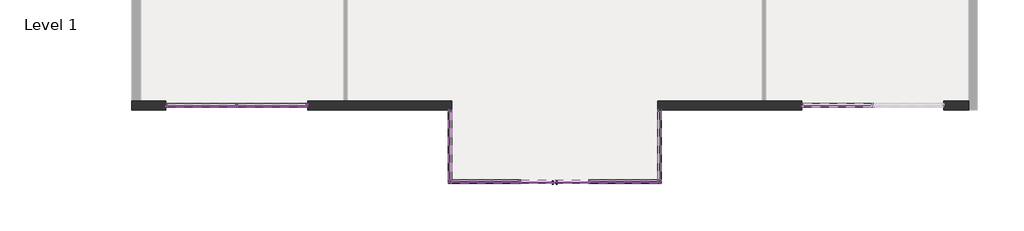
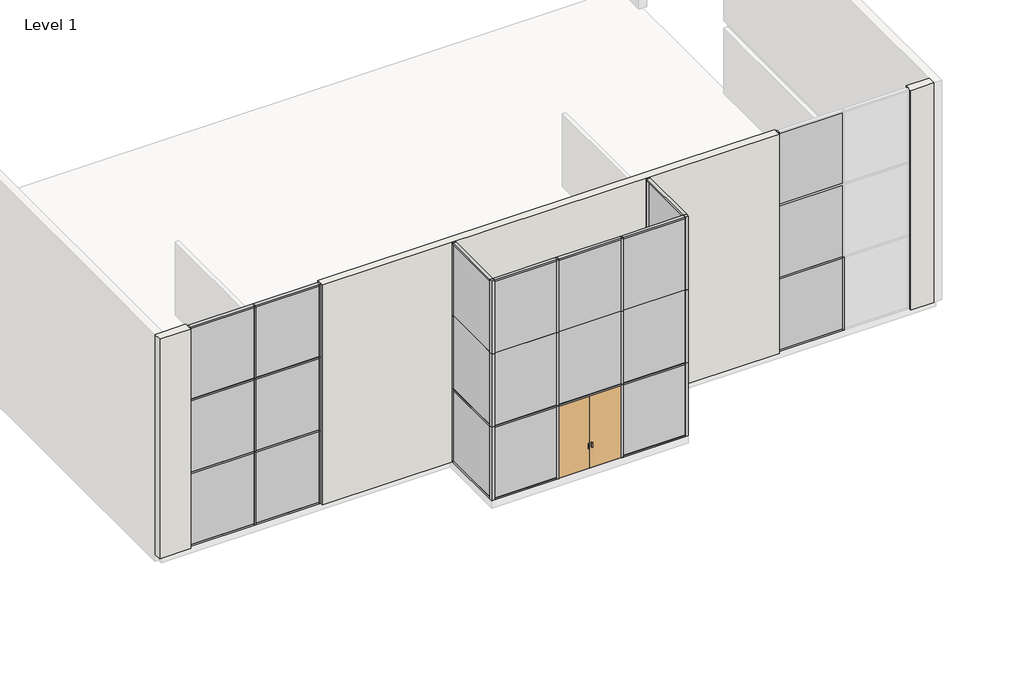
# One storey, part 1 of 7: 55 members, 23 plates, 1 door, 1 wall.
"""IFC4 building model written with IfcOpenShell, lengths in millimetres."""

from ifc_helpers import new_model, si_unit, origin, place, context, project, spatial, faceted_brep, transform, mapped, element, save
from components import m_curtain_wall_dbl_glass_m_curtain_wall_dbl_glass_65589565, member_092dde94, member_3b285806, member_887e70fb, member_3f395ae9, member_eaba9652, member_bd5c9510, member_6d1da0dd, member_11ed7e2d, member_605e1044, member_b6766b59, member_5ef46571, system_panel_glazed_dec8f576, system_panel_glazed_a2b5a2cd, system_panel_glazed_4b2e8b6a, system_panel_glazed_935986ee, system_panel_glazed_54eba105, system_panel_glazed_2b873caf, system_panel_glazed_5724f4ed, system_panel_glazed_d0cb5eef, system_panel_glazed_25cc98ba, system_panel_glazed_d8e6d469, system_panel_glazed_b25d086d, system_panel_glazed_057324e0

model = new_model("IFC4")

# Units and contexts
model_context = context("Model", 3, world=origin())
ifc_project = project(units=[si_unit("LENGTHUNIT", "METRE", prefix="MILLI")], contexts=[model_context])

# Site, building, storey
site = spatial("IfcSite", under=ifc_project)
building = spatial("IfcBuilding", under=site)
storey = spatial("IfcBuildingStorey", under=building, Name="Level 1", Elevation=0.0)

# Door
placement = place(None, origin())
m_curtain_wall_dbl_glass_m_curtain_wall_dbl_glass_shape = m_curtain_wall_dbl_glass_m_curtain_wall_dbl_glass_65589565(model_context)
element("IfcDoor", 1, ObjectType="M_Curtain Wall Dbl Glass : M_Curtain Wall Dbl Glass", at=placement, inside=storey, context=model_context, shape_type="MappedRepresentation", body=[
    mapped(m_curtain_wall_dbl_glass_m_curtain_wall_dbl_glass_shape, transform((-3088.917382, -8357.3516396, 0.0), x_axis=(-1.0, 0.0, 0.0), y_axis=(0.0, -1.0, 0.0), z_axis=(0.0, 0.0, 1.0))),
])

# Members
member_shape = member_092dde94(model_context)
element("IfcMember", 2, ObjectType="Quad Corner Mullion : 5\" x 5\" Quad Corner", at=placement, inside=storey, context=model_context, shape_type="MappedRepresentation", body=[
    mapped(member_shape, transform((-6898.917382, -8357.3516396, 0.0), x_axis=(-1.0, 0.0, 0.0), y_axis=(0.0, 1.0, 0.0), z_axis=(0.0, 0.0, -1.0))),
])
element("IfcMember", 3, ObjectType="Quad Corner Mullion : 5\" x 5\" Quad Corner", at=placement, inside=storey, context=model_context, shape_type="MappedRepresentation", body=[
    mapped(member_shape, transform((721.082618, -8357.3516396, 3048.0), x_axis=(1.0, 0.0, 0.0), y_axis=(0.0, 1.0, 0.0), z_axis=(0.0, 0.0, 1.0))),
])
element("IfcMember", 4, ObjectType="Quad Corner Mullion : 5\" x 5\" Quad Corner", at=placement, inside=storey, context=model_context, shape_type="MappedRepresentation", body=[
    mapped(member_shape, transform((721.082618, -8357.3516396, 9144.0), x_axis=(1.0, 0.0, 0.0), y_axis=(0.0, 1.0, 0.0), z_axis=(0.0, 0.0, 1.0))),
])
element("IfcMember", 5, ObjectType="Quad Corner Mullion : 5\" x 5\" Quad Corner", at=placement, inside=storey, context=model_context, shape_type="MappedRepresentation", body=[
    mapped(member_shape, transform((-6898.917382, -8357.3516396, 3048.0), x_axis=(-1.0, 0.0, 0.0), y_axis=(0.0, 1.0, 0.0), z_axis=(0.0, 0.0, -1.0))),
])
element("IfcMember", 6, ObjectType="Quad Corner Mullion : 5\" x 5\" Quad Corner", at=placement, inside=storey, context=model_context, shape_type="MappedRepresentation", body=[
    mapped(member_shape, transform((721.082618, -8357.3516396, 6096.0), x_axis=(1.0, 0.0, 0.0), y_axis=(0.0, 1.0, 0.0), z_axis=(0.0, 0.0, 1.0))),
])
element("IfcMember", 7, ObjectType="Quad Corner Mullion : 5\" x 5\" Quad Corner", at=placement, inside=storey, context=model_context, shape_type="MappedRepresentation", body=[
    mapped(member_shape, transform((-6898.917382, -8357.3516396, 6096.0), x_axis=(-1.0, 0.0, 0.0), y_axis=(0.0, 1.0, 0.0), z_axis=(0.0, 0.0, -1.0))),
])
member_2_shape = member_3b285806(model_context)
element("IfcMember", 8, ObjectType="Rectangular Mullion : 2.5\" x 5\" rectangular", at=placement, inside=storey, context=model_context, shape_type="MappedRepresentation", body=[
    mapped(member_2_shape, transform((-6835.417382, -8357.3516396, 9144.0), x_axis=(0.0, 0.0, 1.0), y_axis=(0.0, 1.0, 0.0), z_axis=(-1.0, 0.0, 0.0))),
])
element("IfcMember", 9, ObjectType="Rectangular Mullion : 2.5\" x 5\" rectangular", at=placement, inside=storey, context=model_context, shape_type="MappedRepresentation", body=[
    mapped(member_2_shape, transform((-1787.1673821, -8357.3516396, 9144.0), x_axis=(0.0, 0.0, 1.0), y_axis=(0.0, 1.0, 0.0), z_axis=(-1.0, 0.0, 0.0))),
])
element("IfcMember", 10, ObjectType="Rectangular Mullion : 2.5\" x 5\" rectangular", at=placement, inside=storey, context=model_context, shape_type="MappedRepresentation", body=[
    mapped(member_2_shape, transform((657.582618, -8357.3516396, 0.0), x_axis=(0.0, 0.0, -1.0), y_axis=(0.0, 1.0, 0.0), z_axis=(1.0, 0.0, 0.0))),
])
element("IfcMember", 11, ObjectType="Rectangular Mullion : 2.5\" x 5\" rectangular", at=placement, inside=storey, context=model_context, shape_type="MappedRepresentation", body=[
    mapped(member_2_shape, transform((-4390.6673819, -8357.3516396, 0.0), x_axis=(0.0, 0.0, -1.0), y_axis=(0.0, 1.0, 0.0), z_axis=(1.0, 0.0, 0.0))),
])
member_3_shape = member_887e70fb(model_context)
element("IfcMember", 12, ObjectType="Rectangular Mullion : 2.5\" x 5\" rectangular", at=placement, inside=storey, context=model_context, shape_type="MappedRepresentation", body=[
    mapped(member_3_shape, transform((-4327.1673819, -8357.3516396, 9144.0), x_axis=(0.0, 0.0, 1.0), y_axis=(0.0, 1.0, 0.0), z_axis=(-1.0, 0.0, 0.0))),
])
member_4_shape = member_3f395ae9(model_context)
element("IfcMember", 13, ObjectType="Rectangular Mullion : 2.5\" x 5\" rectangular", at=placement, inside=storey, context=model_context, shape_type="MappedRepresentation", body=[
    mapped(member_4_shape, transform((-6898.917382, -5737.9766396, 0.0), x_axis=(0.0, 1.0, 0.0), y_axis=(1.0, 0.0, 0.0), z_axis=(0.0, 0.0, -1.0))),
])
element("IfcMember", 14, ObjectType="Rectangular Mullion : 2.5\" x 5\" rectangular", at=placement, inside=storey, context=model_context, shape_type="MappedRepresentation", body=[
    mapped(member_4_shape, transform((-17262.117382, -5582.4016396, 0.0), x_axis=(-1.0, 0.0, 0.0), y_axis=(0.0, 1.0, 0.0), z_axis=(0.0, 0.0, -1.0))),
])
element("IfcMember", 15, ObjectType="Rectangular Mullion : 2.5\" x 5\" rectangular", at=placement, inside=storey, context=model_context, shape_type="MappedRepresentation", body=[
    mapped(member_4_shape, transform((-17262.117382, -5582.4016396, 6096.0), x_axis=(-1.0, 0.0, 0.0), y_axis=(0.0, 1.0, 0.0), z_axis=(0.0, 0.0, -1.0))),
])
member_5_shape = member_eaba9652(model_context)
element("IfcMember", 16, ObjectType="Rectangular Mullion : 2.5\" x 5\" rectangular", at=placement, inside=storey, context=model_context, shape_type="MappedRepresentation", body=[
    mapped(member_5_shape, transform((-1818.9173821, -8357.3516396, 0.0), x_axis=(-1.0, 0.0, 0.0), y_axis=(0.0, 1.0, 0.0), z_axis=(0.0, 0.0, -1.0))),
])
element("IfcMember", 17, ObjectType="Rectangular Mullion : 2.5\" x 5\" rectangular", at=placement, inside=storey, context=model_context, shape_type="MappedRepresentation", body=[
    mapped(member_5_shape, transform((-4358.9173819, -8357.3516396, 0.0), x_axis=(-1.0, 0.0, 0.0), y_axis=(0.0, 1.0, 0.0), z_axis=(0.0, 0.0, -1.0))),
])
element("IfcMember", 18, ObjectType="Rectangular Mullion : 2.5\" x 5\" rectangular", at=placement, inside=storey, context=model_context, shape_type="MappedRepresentation", body=[
    mapped(member_5_shape, transform((-14671.317382, -5582.4016396, 0.0), x_axis=(-1.0, 0.0, 0.0), y_axis=(0.0, 1.0, 0.0), z_axis=(0.0, 0.0, -1.0))),
])
element("IfcMember", 19, ObjectType="Rectangular Mullion : 2.5\" x 5\" rectangular", at=placement, inside=storey, context=model_context, shape_type="MappedRepresentation", body=[
    mapped(member_5_shape, transform((-14671.317382, -5582.4016396, 6096.0), x_axis=(-1.0, 0.0, 0.0), y_axis=(0.0, 1.0, 0.0), z_axis=(0.0, 0.0, -1.0))),
])
member_6_shape = member_bd5c9510(model_context)
element("IfcMember", 20, ObjectType="Rectangular Mullion : 2.5\" x 5\" rectangular", at=placement, inside=storey, context=model_context, shape_type="MappedRepresentation", body=[
    mapped(member_6_shape, transform((-6835.417382, -8357.3516396, 3048.0), x_axis=(0.0, 0.0, 1.0), y_axis=(0.0, 1.0, 0.0), z_axis=(-1.0, 0.0, 0.0))),
])
element("IfcMember", 21, ObjectType="Rectangular Mullion : 2.5\" x 5\" rectangular", at=placement, inside=storey, context=model_context, shape_type="MappedRepresentation", body=[
    mapped(member_6_shape, transform((-1787.1673821, -8357.3516396, 3048.0), x_axis=(0.0, 0.0, 1.0), y_axis=(0.0, 1.0, 0.0), z_axis=(-1.0, 0.0, 0.0))),
])
member_7_shape = member_6d1da0dd(model_context)
element("IfcMember", 22, ObjectType="Rectangular Mullion : 2.5\" x 5\" rectangular", at=placement, inside=storey, context=model_context, shape_type="MappedRepresentation", body=[
    mapped(member_7_shape, transform((-4327.1673819, -8357.3516396, 3048.0), x_axis=(0.0, 0.0, 1.0), y_axis=(0.0, 1.0, 0.0), z_axis=(-1.0, 0.0, 0.0))),
])
element("IfcMember", 23, ObjectType="Rectangular Mullion : 2.5\" x 5\" rectangular", at=placement, inside=storey, context=model_context, shape_type="MappedRepresentation", body=[
    mapped(member_4_shape, transform((-12080.517382, -5582.4016396, 9144.0), x_axis=(1.0, 0.0, 0.0), y_axis=(0.0, 1.0, 0.0), z_axis=(0.0, 0.0, 1.0))),
])
element("IfcMember", 24, ObjectType="Rectangular Mullion : 2.5\" x 5\" rectangular", at=placement, inside=storey, context=model_context, shape_type="MappedRepresentation", body=[
    mapped(member_4_shape, transform((721.082618, -5737.9766396, 3048.0), x_axis=(0.0, 1.0, 0.0), y_axis=(-1.0, 0.0, 0.0), z_axis=(0.0, 0.0, 1.0))),
])
element("IfcMember", 25, ObjectType="Rectangular Mullion : 2.5\" x 5\" rectangular", at=placement, inside=storey, context=model_context, shape_type="MappedRepresentation", body=[
    mapped(member_4_shape, transform((-12080.517382, -5582.4016396, 3048.0), x_axis=(1.0, 0.0, 0.0), y_axis=(0.0, 1.0, 0.0), z_axis=(0.0, 0.0, 1.0))),
])
element("IfcMember", 26, ObjectType="Rectangular Mullion : 2.5\" x 5\" rectangular", at=placement, inside=storey, context=model_context, shape_type="MappedRepresentation", body=[
    mapped(member_5_shape, transform((8493.482618, -5582.4016396, 0.0), x_axis=(1.0, 0.0, 0.0), y_axis=(0.0, -1.0, 0.0), z_axis=(0.0, 0.0, -1.0))),
])
element("IfcMember", 27, ObjectType="Rectangular Mullion : 2.5\" x 5\" rectangular", at=placement, inside=storey, context=model_context, shape_type="MappedRepresentation", body=[
    mapped(member_4_shape, transform((5902.682618, -5582.4016396, 9144.0), x_axis=(-1.0, 0.0, 0.0), y_axis=(0.0, -1.0, 0.0), z_axis=(0.0, 0.0, 1.0))),
])
element("IfcMember", 28, ObjectType="Rectangular Mullion : 2.5\" x 5\" rectangular", at=placement, inside=storey, context=model_context, shape_type="MappedRepresentation", body=[
    mapped(member_4_shape, transform((5902.682618, -5582.4016396, 3048.0), x_axis=(-1.0, 0.0, 0.0), y_axis=(0.0, -1.0, 0.0), z_axis=(0.0, 0.0, 1.0))),
])
element("IfcMember", 29, ObjectType="Rectangular Mullion : 2.5\" x 5\" rectangular", at=placement, inside=storey, context=model_context, shape_type="MappedRepresentation", body=[
    mapped(member_4_shape, transform((5902.682618, -5582.4016396, 6096.0), x_axis=(-1.0, 0.0, 0.0), y_axis=(0.0, -1.0, 0.0), z_axis=(0.0, 0.0, 1.0))),
])
member_8_shape = member_11ed7e2d(model_context)
element("IfcMember", 30, ObjectType="Rectangular Mullion : 2.5\" x 5\" rectangular", at=placement, inside=storey, context=model_context, shape_type="MappedRepresentation", body=[
    mapped(member_8_shape, transform((-6898.917382, -5801.4766396, 9144.0), x_axis=(0.0, 0.0, 1.0), y_axis=(1.0, 0.0, 0.0), z_axis=(0.0, 1.0, 0.0))),
])
element("IfcMember", 31, ObjectType="Rectangular Mullion : 2.5\" x 5\" rectangular", at=placement, inside=storey, context=model_context, shape_type="MappedRepresentation", body=[
    mapped(member_8_shape, transform((721.082618, -8293.8516396, 9144.0), x_axis=(0.0, 0.0, 1.0), y_axis=(-1.0, 0.0, 0.0), z_axis=(0.0, -1.0, 0.0))),
])
element("IfcMember", 32, ObjectType="Rectangular Mullion : 2.5\" x 5\" rectangular", at=placement, inside=storey, context=model_context, shape_type="MappedRepresentation", body=[
    mapped(member_8_shape, transform((-6898.917382, -8293.8516396, 0.0), x_axis=(0.0, 0.0, -1.0), y_axis=(1.0, 0.0, 0.0), z_axis=(0.0, -1.0, 0.0))),
])
element("IfcMember", 33, ObjectType="Rectangular Mullion : 2.5\" x 5\" rectangular", at=placement, inside=storey, context=model_context, shape_type="MappedRepresentation", body=[
    mapped(member_8_shape, transform((721.082618, -5801.4766396, 0.0), x_axis=(0.0, 0.0, -1.0), y_axis=(-1.0, 0.0, 0.0), z_axis=(0.0, 1.0, 0.0))),
])
member_9_shape = member_605e1044(model_context)
element("IfcMember", 34, ObjectType="Rectangular Mullion : 2.5\" x 5\" rectangular", at=placement, inside=storey, context=model_context, shape_type="MappedRepresentation", body=[
    mapped(member_9_shape, transform((-6898.917382, -5801.4766396, 3048.0), x_axis=(0.0, 0.0, 1.0), y_axis=(1.0, 0.0, 0.0), z_axis=(0.0, 1.0, 0.0))),
])
element("IfcMember", 35, ObjectType="Rectangular Mullion : 2.5\" x 5\" rectangular", at=placement, inside=storey, context=model_context, shape_type="MappedRepresentation", body=[
    mapped(member_9_shape, transform((721.082618, -8293.8516396, 3048.0), x_axis=(0.0, 0.0, 1.0), y_axis=(-1.0, 0.0, 0.0), z_axis=(0.0, -1.0, 0.0))),
])
member_10_shape = member_b6766b59(model_context)
element("IfcMember", 36, ObjectType="Rectangular Mullion : 2.5\" x 5\" rectangular", at=placement, inside=storey, context=model_context, shape_type="MappedRepresentation", body=[
    mapped(member_10_shape, transform((-17198.617382, -5582.4016396, 9144.0), x_axis=(0.0, 0.0, 1.0), y_axis=(0.0, 1.0, 0.0), z_axis=(-1.0, 0.0, 0.0))),
])
element("IfcMember", 37, ObjectType="Rectangular Mullion : 2.5\" x 5\" rectangular", at=placement, inside=storey, context=model_context, shape_type="MappedRepresentation", body=[
    mapped(member_10_shape, transform((-14639.567382, -5582.4016396, 9144.0), x_axis=(0.0, 0.0, 1.0), y_axis=(0.0, 1.0, 0.0), z_axis=(-1.0, 0.0, 0.0))),
])
element("IfcMember", 38, ObjectType="Rectangular Mullion : 2.5\" x 5\" rectangular", at=placement, inside=storey, context=model_context, shape_type="MappedRepresentation", body=[
    mapped(member_10_shape, transform((-12144.017382, -5582.4016396, 0.0), x_axis=(0.0, 0.0, -1.0), y_axis=(0.0, 1.0, 0.0), z_axis=(1.0, 0.0, 0.0))),
])
element("IfcMember", 39, ObjectType="Rectangular Mullion : 2.5\" x 5\" rectangular", at=placement, inside=storey, context=model_context, shape_type="MappedRepresentation", body=[
    mapped(member_10_shape, transform((-14703.067382, -5582.4016396, 0.0), x_axis=(0.0, 0.0, -1.0), y_axis=(0.0, 1.0, 0.0), z_axis=(1.0, 0.0, 0.0))),
])
member_11_shape = member_5ef46571(model_context)
element("IfcMember", 40, ObjectType="Rectangular Mullion : 2.5\" x 5\" rectangular", at=placement, inside=storey, context=model_context, shape_type="MappedRepresentation", body=[
    mapped(member_11_shape, transform((-14639.567382, -5582.4016396, 3048.0), x_axis=(0.0, 0.0, 1.0), y_axis=(0.0, 1.0, 0.0), z_axis=(-1.0, 0.0, 0.0))),
])
element("IfcMember", 41, ObjectType="Rectangular Mullion : 2.5\" x 5\" rectangular", at=placement, inside=storey, context=model_context, shape_type="MappedRepresentation", body=[
    mapped(member_11_shape, transform((-17198.617382, -5582.4016396, 3048.0), x_axis=(0.0, 0.0, 1.0), y_axis=(0.0, 1.0, 0.0), z_axis=(-1.0, 0.0, 0.0))),
])
element("IfcMember", 42, ObjectType="Rectangular Mullion : 2.5\" x 5\" rectangular", at=placement, inside=storey, context=model_context, shape_type="MappedRepresentation", body=[
    mapped(member_11_shape, transform((-14639.567382, -5582.4016396, 6096.0), x_axis=(0.0, 0.0, 1.0), y_axis=(0.0, 1.0, 0.0), z_axis=(-1.0, 0.0, 0.0))),
])
element("IfcMember", 43, ObjectType="Rectangular Mullion : 2.5\" x 5\" rectangular", at=placement, inside=storey, context=model_context, shape_type="MappedRepresentation", body=[
    mapped(member_11_shape, transform((-17198.617382, -5582.4016396, 6096.0), x_axis=(0.0, 0.0, 1.0), y_axis=(0.0, 1.0, 0.0), z_axis=(-1.0, 0.0, 0.0))),
])
element("IfcMember", 44, ObjectType="Rectangular Mullion : 2.5\" x 5\" rectangular", at=placement, inside=storey, context=model_context, shape_type="MappedRepresentation", body=[
    mapped(member_5_shape, transform((-14671.317382, -5582.4016396, 3048.0), x_axis=(-1.0, 0.0, 0.0), y_axis=(0.0, 1.0, 0.0), z_axis=(0.0, 0.0, -1.0))),
])
element("IfcMember", 45, ObjectType="Rectangular Mullion : 2.5\" x 5\" rectangular", at=placement, inside=storey, context=model_context, shape_type="MappedRepresentation", body=[
    mapped(member_4_shape, transform((-17262.117382, -5582.4016396, 3048.0), x_axis=(-1.0, 0.0, 0.0), y_axis=(0.0, 1.0, 0.0), z_axis=(0.0, 0.0, -1.0))),
])
element("IfcMember", 46, ObjectType="Rectangular Mullion : 2.5\" x 5\" rectangular", at=placement, inside=storey, context=model_context, shape_type="MappedRepresentation", body=[
    mapped(member_4_shape, transform((-12080.517382, -5582.4016396, 6096.0), x_axis=(1.0, 0.0, 0.0), y_axis=(0.0, 1.0, 0.0), z_axis=(0.0, 0.0, 1.0))),
])
element("IfcMember", 47, ObjectType="Rectangular Mullion : 2.5\" x 5\" rectangular", at=placement, inside=storey, context=model_context, shape_type="MappedRepresentation", body=[
    mapped(member_10_shape, transform((5966.182618, -5582.4016396, 0.0), x_axis=(0.0, 0.0, -1.0), y_axis=(0.0, -1.0, 0.0), z_axis=(-1.0, 0.0, 0.0))),
])
element("IfcMember", 48, ObjectType="Rectangular Mullion : 2.5\" x 5\" rectangular", at=placement, inside=storey, context=model_context, shape_type="MappedRepresentation", body=[
    mapped(member_11_shape, transform((8461.732618, -5582.4016396, 3048.0), x_axis=(0.0, 0.0, 1.0), y_axis=(0.0, -1.0, 0.0), z_axis=(1.0, 0.0, 0.0))),
])
element("IfcMember", 49, ObjectType="Rectangular Mullion : 2.5\" x 5\" rectangular", at=placement, inside=storey, context=model_context, shape_type="MappedRepresentation", body=[
    mapped(member_5_shape, transform((-1818.9173821, -8357.3516396, 3048.0), x_axis=(-1.0, 0.0, 0.0), y_axis=(0.0, 1.0, 0.0), z_axis=(0.0, 0.0, -1.0))),
])
element("IfcMember", 50, ObjectType="Rectangular Mullion : 2.5\" x 5\" rectangular", at=placement, inside=storey, context=model_context, shape_type="MappedRepresentation", body=[
    mapped(member_5_shape, transform((-4358.9173819, -8357.3516396, 3048.0), x_axis=(-1.0, 0.0, 0.0), y_axis=(0.0, 1.0, 0.0), z_axis=(0.0, 0.0, -1.0))),
])
element("IfcMember", 51, ObjectType="Rectangular Mullion : 2.5\" x 5\" rectangular", at=placement, inside=storey, context=model_context, shape_type="MappedRepresentation", body=[
    mapped(member_5_shape, transform((-1818.9173821, -8357.3516396, 6096.0), x_axis=(-1.0, 0.0, 0.0), y_axis=(0.0, 1.0, 0.0), z_axis=(0.0, 0.0, -1.0))),
])
element("IfcMember", 52, ObjectType="Rectangular Mullion : 2.5\" x 5\" rectangular", at=placement, inside=storey, context=model_context, shape_type="MappedRepresentation", body=[
    mapped(member_5_shape, transform((-4358.9173819, -8357.3516396, 6096.0), x_axis=(-1.0, 0.0, 0.0), y_axis=(0.0, 1.0, 0.0), z_axis=(0.0, 0.0, -1.0))),
])
element("IfcMember", 53, ObjectType="Rectangular Mullion : 2.5\" x 5\" rectangular", at=placement, inside=storey, context=model_context, shape_type="MappedRepresentation", body=[
    mapped(member_4_shape, transform((721.082618, -5737.9766396, 9144.0), x_axis=(0.0, 1.0, 0.0), y_axis=(-1.0, 0.0, 0.0), z_axis=(0.0, 0.0, 1.0))),
])
element("IfcMember", 54, ObjectType="Rectangular Mullion : 2.5\" x 5\" rectangular", at=placement, inside=storey, context=model_context, shape_type="MappedRepresentation", body=[
    mapped(member_4_shape, transform((-6898.917382, -5737.9766396, 3048.0), x_axis=(0.0, 1.0, 0.0), y_axis=(1.0, 0.0, 0.0), z_axis=(0.0, 0.0, -1.0))),
])
element("IfcMember", 55, ObjectType="Rectangular Mullion : 2.5\" x 5\" rectangular", at=placement, inside=storey, context=model_context, shape_type="MappedRepresentation", body=[
    mapped(member_4_shape, transform((721.082618, -5737.9766396, 6096.0), x_axis=(0.0, 1.0, 0.0), y_axis=(-1.0, 0.0, 0.0), z_axis=(0.0, 0.0, 1.0))),
])
element("IfcMember", 56, ObjectType="Rectangular Mullion : 2.5\" x 5\" rectangular", at=placement, inside=storey, context=model_context, shape_type="MappedRepresentation", body=[
    mapped(member_4_shape, transform((-6898.917382, -5737.9766396, 6096.0), x_axis=(0.0, 1.0, 0.0), y_axis=(1.0, 0.0, 0.0), z_axis=(0.0, 0.0, -1.0))),
])

# Plates
system_panel_glazed_shape = system_panel_glazed_dec8f576(model_context)
element("IfcPlate", 57, ObjectType="System Panel : Glazed", at=placement, inside=storey, context=model_context, shape_type="MappedRepresentation", body=[
    mapped(system_panel_glazed_shape, transform((-564.792382, -8357.3516396, 63.5), x_axis=(-1.0, 0.0, 0.0), y_axis=(0.0, -1.0, 0.0), z_axis=(0.0, 0.0, 1.0))),
])
element("IfcPlate", 58, ObjectType="System Panel : Glazed", at=placement, inside=storey, context=model_context, shape_type="MappedRepresentation", body=[
    mapped(system_panel_glazed_shape, transform((-5613.0423819, -8357.3516396, 63.5), x_axis=(-1.0, 0.0, 0.0), y_axis=(0.0, -1.0, 0.0), z_axis=(0.0, 0.0, 1.0))),
])
system_panel_glazed_2_shape = system_panel_glazed_a2b5a2cd(model_context)
element("IfcPlate", 59, ObjectType="System Panel : Glazed", at=placement, inside=storey, context=model_context, shape_type="MappedRepresentation", body=[
    mapped(system_panel_glazed_2_shape, transform((721.082618, -7047.6641396, 63.5), x_axis=(0.0, -1.0, 0.0), y_axis=(1.0, 0.0, 0.0), z_axis=(0.0, 0.0, 1.0))),
])
element("IfcPlate", 60, ObjectType="System Panel : Glazed", at=placement, inside=storey, context=model_context, shape_type="MappedRepresentation", body=[
    mapped(system_panel_glazed_2_shape, transform((-6898.917382, -7047.6641396, 63.5), x_axis=(0.0, 1.0, 0.0), y_axis=(-1.0, 0.0, 0.0), z_axis=(0.0, 0.0, 1.0))),
])
system_panel_glazed_3_shape = system_panel_glazed_4b2e8b6a(model_context)
element("IfcPlate", 61, ObjectType="System Panel : Glazed", at=placement, inside=storey, context=model_context, shape_type="MappedRepresentation", body=[
    mapped(system_panel_glazed_3_shape, transform((-13391.792382, -5582.4016396, 63.5), x_axis=(-1.0, 0.0, 0.0), y_axis=(0.0, -1.0, 0.0), z_axis=(0.0, 0.0, 1.0))),
])
element("IfcPlate", 62, ObjectType="System Panel : Glazed", at=placement, inside=storey, context=model_context, shape_type="MappedRepresentation", body=[
    mapped(system_panel_glazed_3_shape, transform((-15950.842382, -5582.4016396, 63.5), x_axis=(-1.0, 0.0, 0.0), y_axis=(0.0, -1.0, 0.0), z_axis=(0.0, 0.0, 1.0))),
])
element("IfcPlate", 63, ObjectType="System Panel : Glazed", at=placement, inside=storey, context=model_context, shape_type="MappedRepresentation", body=[
    mapped(system_panel_glazed_3_shape, transform((-13391.792382, -5582.4016396, 6127.75), x_axis=(-1.0, 0.0, 0.0), y_axis=(0.0, -1.0, 0.0), z_axis=(0.0, 0.0, 1.0))),
])
element("IfcPlate", 64, ObjectType="System Panel : Glazed", at=placement, inside=storey, context=model_context, shape_type="MappedRepresentation", body=[
    mapped(system_panel_glazed_3_shape, transform((-15950.842382, -5582.4016396, 6127.75), x_axis=(-1.0, 0.0, 0.0), y_axis=(0.0, -1.0, 0.0), z_axis=(0.0, 0.0, 1.0))),
])
system_panel_glazed_4_shape = system_panel_glazed_935986ee(model_context)
element("IfcPlate", 65, ObjectType="System Panel : Glazed", at=placement, inside=storey, context=model_context, shape_type="MappedRepresentation", body=[
    mapped(system_panel_glazed_4_shape, transform((-13391.792382, -5582.4016396, 3079.75), x_axis=(-1.0, 0.0, 0.0), y_axis=(0.0, -1.0, 0.0), z_axis=(0.0, 0.0, 1.0))),
])
element("IfcPlate", 66, ObjectType="System Panel : Glazed", at=placement, inside=storey, context=model_context, shape_type="MappedRepresentation", body=[
    mapped(system_panel_glazed_4_shape, transform((-15950.842382, -5582.4016396, 3079.75), x_axis=(-1.0, 0.0, 0.0), y_axis=(0.0, -1.0, 0.0), z_axis=(0.0, 0.0, 1.0))),
])
system_panel_glazed_5_shape = system_panel_glazed_54eba105(model_context)
element("IfcPlate", 67, ObjectType="System Panel : Glazed", at=placement, inside=storey, context=model_context, shape_type="MappedRepresentation", body=[
    mapped(system_panel_glazed_5_shape, transform((7213.957618, -5582.4016396, 63.5), x_axis=(1.0, 0.0, 0.0), y_axis=(0.0, 1.0, 0.0), z_axis=(0.0, 0.0, 1.0))),
])
element("IfcPlate", 68, ObjectType="System Panel : Glazed", at=placement, inside=storey, context=model_context, shape_type="MappedRepresentation", body=[
    mapped(system_panel_glazed_5_shape, transform((7213.957618, -5582.4016396, 6127.75), x_axis=(1.0, 0.0, 0.0), y_axis=(0.0, 1.0, 0.0), z_axis=(0.0, 0.0, 1.0))),
])
system_panel_glazed_6_shape = system_panel_glazed_2b873caf(model_context)
element("IfcPlate", 69, ObjectType="System Panel : Glazed", at=placement, inside=storey, context=model_context, shape_type="MappedRepresentation", body=[
    mapped(system_panel_glazed_6_shape, transform((7213.957618, -5582.4016396, 3079.75), x_axis=(1.0, 0.0, 0.0), y_axis=(0.0, 1.0, 0.0), z_axis=(0.0, 0.0, 1.0))),
])
system_panel_glazed_7_shape = system_panel_glazed_5724f4ed(model_context)
element("IfcPlate", 70, ObjectType="System Panel : Glazed", at=placement, inside=storey, context=model_context, shape_type="MappedRepresentation", body=[
    mapped(system_panel_glazed_7_shape, transform((-3088.917382, -8357.3516396, 3079.75), x_axis=(-1.0, 0.0, 0.0), y_axis=(0.0, -1.0, 0.0), z_axis=(0.0, 0.0, 1.0))),
])
system_panel_glazed_8_shape = system_panel_glazed_d0cb5eef(model_context)
element("IfcPlate", 71, ObjectType="System Panel : Glazed", at=placement, inside=storey, context=model_context, shape_type="MappedRepresentation", body=[
    mapped(system_panel_glazed_8_shape, transform((-564.792382, -8357.3516396, 3079.75), x_axis=(-1.0, 0.0, 0.0), y_axis=(0.0, -1.0, 0.0), z_axis=(0.0, 0.0, 1.0))),
])
element("IfcPlate", 72, ObjectType="System Panel : Glazed", at=placement, inside=storey, context=model_context, shape_type="MappedRepresentation", body=[
    mapped(system_panel_glazed_8_shape, transform((-5613.0423819, -8357.3516396, 3079.75), x_axis=(-1.0, 0.0, 0.0), y_axis=(0.0, -1.0, 0.0), z_axis=(0.0, 0.0, 1.0))),
])
system_panel_glazed_9_shape = system_panel_glazed_25cc98ba(model_context)
element("IfcPlate", 73, ObjectType="System Panel : Glazed", at=placement, inside=storey, context=model_context, shape_type="MappedRepresentation", body=[
    mapped(system_panel_glazed_9_shape, transform((-3088.917382, -8357.3516396, 6096.0), x_axis=(-1.0, 0.0, 0.0), y_axis=(0.0, -1.0, 0.0), z_axis=(0.0, 0.0, 1.0))),
])
system_panel_glazed_10_shape = system_panel_glazed_d8e6d469(model_context)
element("IfcPlate", 74, ObjectType="System Panel : Glazed", at=placement, inside=storey, context=model_context, shape_type="MappedRepresentation", body=[
    mapped(system_panel_glazed_10_shape, transform((721.082618, -7047.6641396, 3079.75), x_axis=(0.0, -1.0, 0.0), y_axis=(1.0, 0.0, 0.0), z_axis=(0.0, 0.0, 1.0))),
])
element("IfcPlate", 75, ObjectType="System Panel : Glazed", at=placement, inside=storey, context=model_context, shape_type="MappedRepresentation", body=[
    mapped(system_panel_glazed_10_shape, transform((-6898.917382, -7047.6641396, 3079.75), x_axis=(0.0, 1.0, 0.0), y_axis=(-1.0, 0.0, 0.0), z_axis=(0.0, 0.0, 1.0))),
])
system_panel_glazed_11_shape = system_panel_glazed_b25d086d(model_context)
element("IfcPlate", 76, ObjectType="System Panel : Glazed", at=placement, inside=storey, context=model_context, shape_type="MappedRepresentation", body=[
    mapped(system_panel_glazed_11_shape, transform((721.082618, -7047.6641396, 6096.0), x_axis=(0.0, -1.0, 0.0), y_axis=(1.0, 0.0, 0.0), z_axis=(0.0, 0.0, 1.0))),
])
element("IfcPlate", 77, ObjectType="System Panel : Glazed", at=placement, inside=storey, context=model_context, shape_type="MappedRepresentation", body=[
    mapped(system_panel_glazed_11_shape, transform((-6898.917382, -7047.6641396, 6096.0), x_axis=(0.0, 1.0, 0.0), y_axis=(-1.0, 0.0, 0.0), z_axis=(0.0, 0.0, 1.0))),
])
system_panel_glazed_12_shape = system_panel_glazed_057324e0(model_context)
element("IfcPlate", 78, ObjectType="System Panel : Glazed", at=placement, inside=storey, context=model_context, shape_type="MappedRepresentation", body=[
    mapped(system_panel_glazed_12_shape, transform((-564.792382, -8357.3516396, 6096.0), x_axis=(-1.0, 0.0, 0.0), y_axis=(0.0, -1.0, 0.0), z_axis=(0.0, 0.0, 1.0))),
])
element("IfcPlate", 79, ObjectType="System Panel : Glazed", at=placement, inside=storey, context=model_context, shape_type="MappedRepresentation", body=[
    mapped(system_panel_glazed_12_shape, transform((-5613.0423819, -8357.3516396, 6096.0), x_axis=(-1.0, 0.0, 0.0), y_axis=(0.0, -1.0, 0.0), z_axis=(0.0, 0.0, 1.0))),
])

# Wall
element("IfcWall", 80, ObjectType="Exterior - EIFS on Mtl. Stud", at=placement, inside=storey, context=model_context, shape_type="Brep", body=[
    faceted_brep([(-18484.492382, -5426.8266396, 0.0), (-18484.492382, -5426.8266396, 9144.0), (-18173.342382, -5426.8266396, 9144.0), (-17262.117382, -5426.8266396, 9144.0), (-17262.117382, -5426.8266396, 3048.0), (-18173.342382, -5426.8266396, 3048.0), (-18338.442382, -5426.8266396, 3048.0), (-18338.442382, -5426.8266396, 2724.15), (-18173.342382, -5426.8266396, 2724.15), (-17262.117382, -5426.8266396, 2724.15), (-17262.117382, -5426.8266396, 0.0), (-18173.342382, -5426.8266396, 0.0), (-18338.442382, -5426.8266396, 0.0), (-18484.492382, -5737.9766396, 9144.0), (-18484.492382, -5737.9766396, 0.0), (-17262.117382, -5737.9766396, 0.0), (-17262.117382, -5737.9766396, 9144.0), (-18338.442382, -5439.5266396, 2724.15), (-17262.117382, -5439.5266396, 2724.15), (-17262.117382, -5439.5266396, 3048.0), (-18338.442382, -5439.5266396, 3048.0)], [[[0, 1, 2, 3, 4, 5, 6, 7, 8, 9, 10, 11, 12]], [[13, 14, 15, 16]], [[14, 0, 12, 11, 10, 15]], [[1, 13, 16, 3, 2]], [[1, 0, 14, 13]], [[7, 17, 18, 9, 8]], [[19, 20, 6, 5, 4]], [[17, 20, 19, 18]], [[20, 17, 7, 6]], [[16, 15, 10, 9, 18, 19, 4, 3]]]),
    faceted_brep([(657.582618, -5426.8266396, 6096.0), (-6835.417382, -5426.8266396, 6096.0), (-6835.417382, -5426.8266396, 0.0), (-10639.067382, -5426.8266396, 0.0), (-10778.767382, -5426.8266396, 0.0), (-12080.517382, -5426.8266396, 0.0), (-12080.517382, -5426.8266396, 2724.15), (-10708.917382, -5426.8266396, 2724.15), (-10708.917382, -5426.8266396, 3048.0), (-10778.767382, -5426.8266396, 3048.0), (-12080.517382, -5426.8266396, 3048.0), (-12080.517382, -5426.8266396, 9144.0), (-10778.767382, -5426.8266396, 9144.0), (-10639.067382, -5426.8266396, 9144.0), (4461.232618, -5426.8266396, 9144.0), (4600.932618, -5426.8266396, 9144.0), (5902.682618, -5426.8266396, 9144.0), (5902.682618, -5426.8266396, 3048.0), (4600.932618, -5426.8266396, 3048.0), (4531.082618, -5426.8266396, 3048.0), (4531.082618, -5426.8266396, 2724.15), (5902.682618, -5426.8266396, 2724.15), (5902.682618, -5426.8266396, 0.0), (4600.932618, -5426.8266396, 0.0), (4461.232618, -5426.8266396, 0.0), (657.582618, -5426.8266396, 0.0), (-6835.417382, -5737.9766396, 6096.0), (657.582618, -5737.9766396, 6096.0), (657.582618, -5737.9766396, 0.0), (5902.682618, -5737.9766396, 0.0), (5902.682618, -5737.9766396, 9144.0), (-12080.517382, -5737.9766396, 9144.0), (-12080.517382, -5737.9766396, 0.0), (-6835.417382, -5737.9766396, 0.0), (4531.082618, -5591.9266396, 2724.15), (5902.682618, -5591.9266396, 2724.15), (-12080.517382, -5439.5266396, 2724.15), (-10708.917382, -5439.5266396, 2724.15), (-10708.917382, -5439.5266396, 3048.0), (-12080.517382, -5439.5266396, 3048.0), (5902.682618, -5591.9266396, 3048.0), (4531.082618, -5591.9266396, 3048.0)], [[[0, 1, 2, 3, 4, 5, 6, 7, 8, 9, 10, 11, 12, 13, 14, 15, 16, 17, 18, 19, 20, 21, 22, 23, 24, 25]], [[26, 27, 28, 29, 30, 31, 32, 33]], [[28, 25, 24, 23, 22, 29]], [[2, 33, 32, 5, 4, 3]], [[30, 16, 15, 14, 13, 12, 11, 31]], [[0, 27, 26, 1]], [[27, 0, 25, 28]], [[1, 26, 33, 2]], [[20, 34, 35, 21]], [[36, 37, 7, 6]], [[8, 38, 39, 10, 9]], [[40, 41, 19, 18, 17]], [[34, 41, 40, 35]], [[38, 37, 36, 39]], [[41, 34, 20, 19]], [[37, 38, 8, 7]], [[30, 29, 22, 21, 35, 40, 17, 16]], [[32, 31, 11, 10, 39, 36, 6, 5]]]),
    faceted_brep([(11084.282618, -5426.8266396, 9144.0), (11995.507618, -5426.8266396, 9144.0), (11995.507618, -5426.8266396, 3048.0), (11084.282618, -5426.8266396, 3048.0), (11995.507618, -5426.8266396, 0.0), (11084.282618, -5426.8266396, 0.0), (11084.282618, -5426.8266396, 2724.15), (11995.507618, -5426.8266396, 2724.15), (11995.507618, -5737.9766396, 0.0), (11995.507618, -5737.9766396, 9144.0), (11084.282618, -5737.9766396, 9144.0), (11084.282618, -5737.9766396, 0.0), (11995.507618, -5591.9266396, 2724.15), (11995.507618, -5591.9266396, 3048.0), (11084.282618, -5591.9266396, 2724.15), (11084.282618, -5591.9266396, 3048.0)], [[[0, 1, 2, 3]], [[4, 5, 6, 7]], [[8, 9, 10, 11]], [[4, 8, 11, 5]], [[9, 1, 0, 10]], [[1, 9, 8, 4, 7, 12, 13, 2]], [[14, 12, 7, 6]], [[13, 15, 3, 2]], [[12, 14, 15, 13]], [[11, 10, 0, 3, 15, 14, 6, 5]]]),
])

save(model, "model.ifc")
